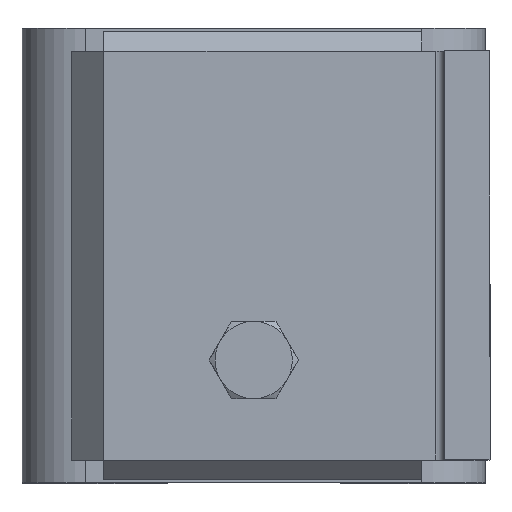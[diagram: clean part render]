
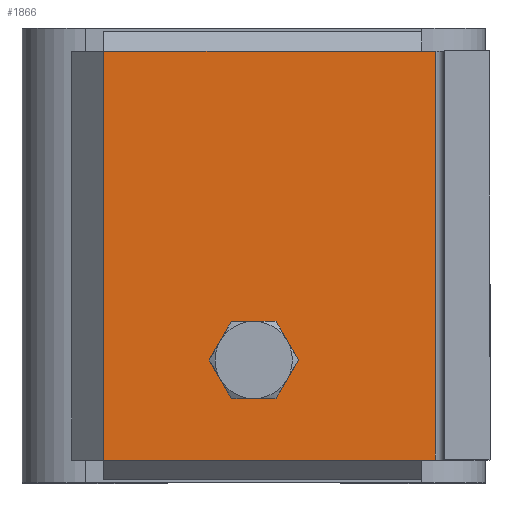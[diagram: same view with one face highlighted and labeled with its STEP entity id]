
A CAD part, top view. The second image highlights one B-rep face of the part: STEP entity #1866.
In plain terms, the highlighted planar face has unit normal (0, 0, 1).
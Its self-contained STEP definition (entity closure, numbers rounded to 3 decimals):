
#68=FACE_BOUND('',#367,.T.);
#221=FACE_OUTER_BOUND('',#366,.T.);
#366=EDGE_LOOP('',(#1573,#1574,#1575,#1576));
#367=EDGE_LOOP('',(#1577));
#456=CIRCLE('',#2047,7.5);
#607=LINE('',#3045,#775);
#610=LINE('',#3051,#778);
#615=LINE('',#3063,#783);
#616=LINE('',#3064,#784);
#775=VECTOR('',#2517,90.);
#778=VECTOR('',#2524,73.);
#783=VECTOR('',#2535,73.);
#784=VECTOR('',#2536,90.);
#909=VERTEX_POINT('',#3027);
#912=VERTEX_POINT('',#3035);
#916=VERTEX_POINT('',#3050);
#920=VERTEX_POINT('',#3062);
#921=VERTEX_POINT('',#3065);
#1136=EDGE_CURVE('',#912,#909,#607,.T.);
#1139=EDGE_CURVE('',#912,#916,#610,.T.);
#1145=EDGE_CURVE('',#920,#909,#615,.T.);
#1146=EDGE_CURVE('',#916,#920,#616,.T.);
#1147=EDGE_CURVE('',#921,#921,#456,.T.);
#1573=ORIENTED_EDGE('',*,*,#1136,.T.);
#1574=ORIENTED_EDGE('',*,*,#1145,.F.);
#1575=ORIENTED_EDGE('',*,*,#1146,.F.);
#1576=ORIENTED_EDGE('',*,*,#1139,.F.);
#1577=ORIENTED_EDGE('',*,*,#1147,.T.);
#1754=PLANE('',#2046);
#1866=ADVANCED_FACE('',(#221,#68),#1754,.T.);
#2046=AXIS2_PLACEMENT_3D('',#3061,#2533,#2534);
#2047=AXIS2_PLACEMENT_3D('',#3066,#2537,#2538);
#2517=DIRECTION('',(-1.,0.,0.));
#2524=DIRECTION('',(0.,-1.,0.));
#2533=DIRECTION('center_axis',(0.,0.,1.));
#2534=DIRECTION('ref_axis',(1.,0.,0.));
#2535=DIRECTION('',(0.,1.,0.));
#2536=DIRECTION('',(-1.,0.,0.));
#2537=DIRECTION('center_axis',(0.,0.,-1.));
#2538=DIRECTION('ref_axis',(1.,0.,0.));
#3027=CARTESIAN_POINT('',(-45.,8.,10.));
#3035=CARTESIAN_POINT('',(45.,8.,10.));
#3045=CARTESIAN_POINT('',(22.5,8.,10.));
#3050=CARTESIAN_POINT('',(45.,-65.,10.));
#3051=CARTESIAN_POINT('',(45.,65.,10.));
#3061=CARTESIAN_POINT('Origin',(0.,0.,
10.));
#3062=CARTESIAN_POINT('',(-45.,-65.,10.));
#3063=CARTESIAN_POINT('',(-45.,-65.,10.));
#3064=CARTESIAN_POINT('',(45.,-65.,10.));
#3065=CARTESIAN_POINT('',(30.5,-32.,10.));
#3066=CARTESIAN_POINT('Origin',(23.,-32.,10.));
